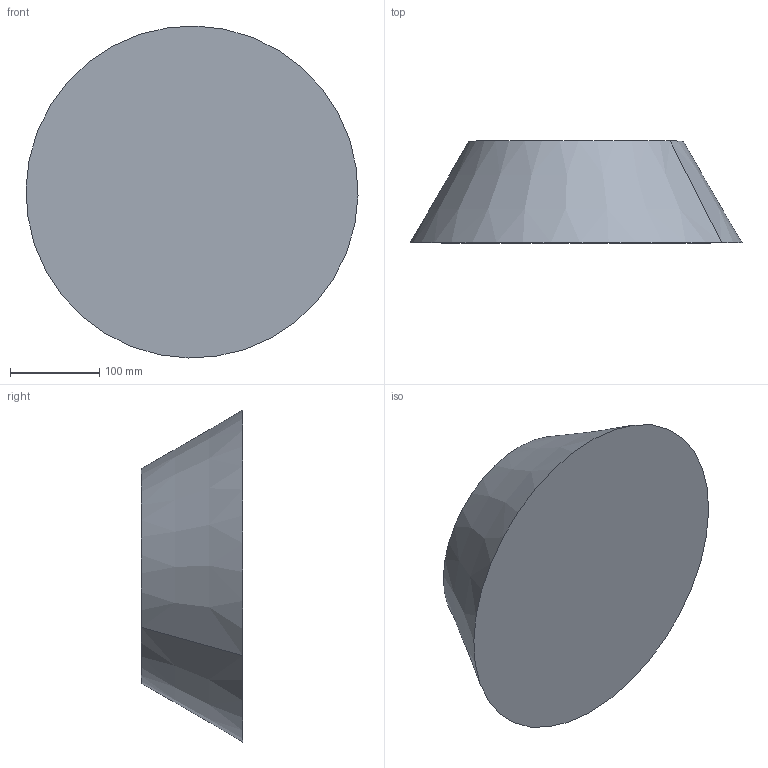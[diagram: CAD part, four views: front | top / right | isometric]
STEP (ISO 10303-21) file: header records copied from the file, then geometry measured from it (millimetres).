
FILE_DESCRIPTION(('CATIA V5 STEP Exchange'),'2;1');
FILE_NAME('C:\_Andres\UNIVERSIDAD\IQS\ASIGNATURAS\DAO\EXF\EXF-16172c\2inicio\Homs_Menis_Ej09_v14.stp','2017-03-05T22:13:12+00:00',('none'),('none'),'CATIA Version 5-6 Release 2014 SP1 HF18','CATIA V5 STEP AP203','none');
FILE_SCHEMA(('CONFIG_CONTROL_DESIGN'));
Length unit declared in the file: millimetre
Products named in the file (1): Homs_Menis_Ej09_v14
Bounding box: 371.9 x 114 x 371.9 mm (x, y, z)
Volume: 8515150.5 mm3; surface area: 282882.4 mm2
Topology: 1 solids, 2 shells, 8 faces, 12 edges, 8 vertices
Faces by surface type: plane 4, cone 2, cylinder 2
Entity records: 205 total; most frequent: CARTESIAN_POINT 27, DIRECTION 24, ORIENTED_EDGE 24, AXIS2_PLACEMENT_3D 15, EDGE_CURVE 12, ADVANCED_FACE 8, CIRCLE 8, EDGE_LOOP 8
